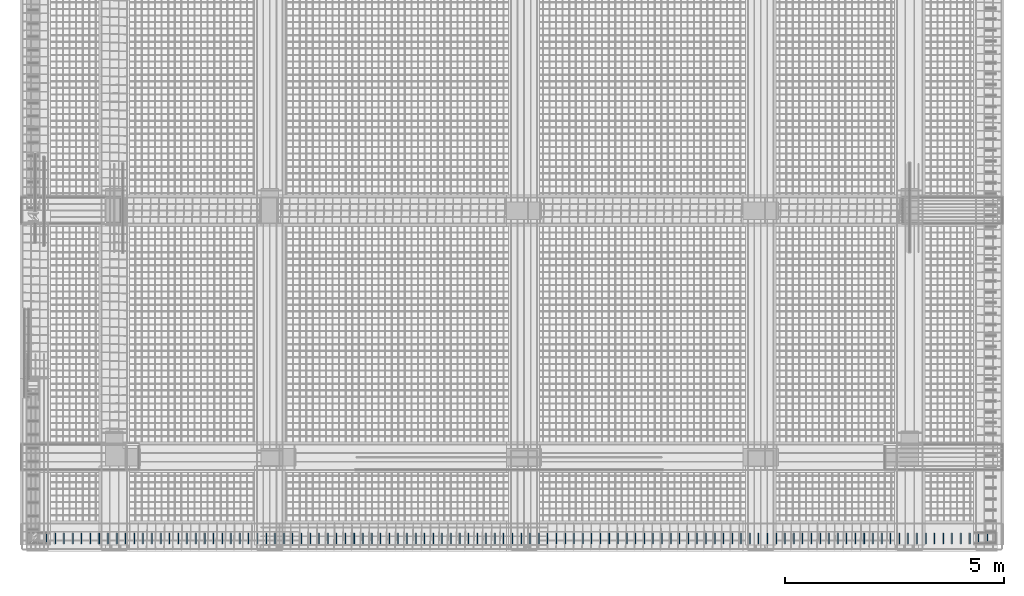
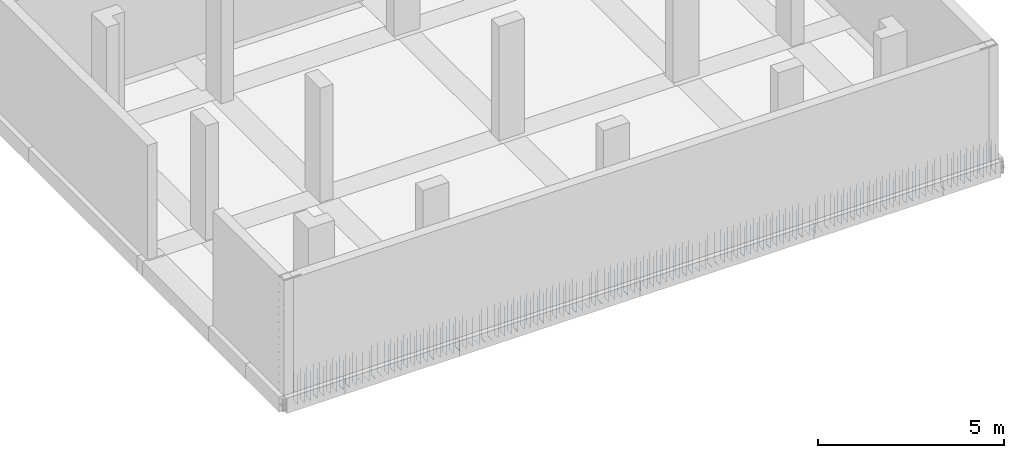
# One storey, part 5 of 9: 1 reinforcing bar.
"""IFC4 building model written with IfcOpenShell, lengths in metres."""

import ifcopenshell
import ifcopenshell.guid

model = None  # the IFC model being written
_history = None  # IfcOwnerHistory: only IFC2X3 demands one
_inside = {}  # id of a spatial element -> (the spatial element, [elements in it])
_under = {}  # id of a project, library or spatial element -> (it, [spatial elements below it])
_declared = {}  # id of a project -> (the project, [libraries it declares])
_typed = {}  # id of a type object -> (the type object, [elements of that type])
_made_of = {}  # id of a material, layer set ... -> (it, [elements and type objects made of it])


def new_model(schema):
    """Start an empty IFC model of exactly this schema.

    Asked for "IFC4X3", IfcOpenShell would pick the latest addendum, in which some entities
    have other attributes; the version numbers below select the first issue.
    IFC2X3 requires an IfcOwnerHistory on every rooted entity: one is made here for all.
    """
    global model, _history
    if schema == "IFC4X3":
        model = ifcopenshell.file(schema_version=(4, 3, 0, 0))
    else:
        model = ifcopenshell.file(schema=schema)
    _inside.clear()
    _under.clear()
    _declared.clear()
    _typed.clear()
    _made_of.clear()
    _history = None
    if model.schema == "IFC2X3":
        org = make("IfcOrganization", Name="unknown")
        user = make(
            "IfcPersonAndOrganization",
            ThePerson=make("IfcPerson", FamilyName="unknown"),
            TheOrganization=org,
        )
        app = make(
            "IfcApplication",
            ApplicationDeveloper=org,
            Version="unknown",
            ApplicationFullName="unknown",
            ApplicationIdentifier="unknown",
        )
        _history = make(
            "IfcOwnerHistory",
            OwningUser=user,
            OwningApplication=app,
            ChangeAction="ADDED",
            CreationDate=0,
        )
    return model


def make(cls, **values):
    """One entity of the class cls with the attributes given. An attribute that is None is left unset."""
    return model.create_entity(
        cls, **{name: value for name, value in values.items() if value is not None}
    )


def entity(cls, *values):
    """Any entity or typed value of the class cls, its attributes in the order of the schema. None: left unset."""
    e = model.create_entity(cls)
    for i, value in enumerate(values):
        if value is not None:
            e[i] = value
    return e


def rooted(cls, **values):
    """An entity with a GlobalId (a new one), such as an element, a storey or a relation."""
    return make(cls, GlobalId=ifcopenshell.guid.new(), OwnerHistory=_history, **values)


def si_unit(unit_type, name, prefix=None):
    """IfcSIUnit, for example si_unit("LENGTHUNIT", "METRE", prefix="MILLI")."""
    return make("IfcSIUnit", UnitType=unit_type, Prefix=prefix, Name=name)


def assignment(units):
    """IfcUnitAssignment: the units of a project."""
    return None if units is None else make("IfcUnitAssignment", Units=units)


def point(xyz):
    """IfcCartesianPoint."""
    return None if xyz is None else make("IfcCartesianPoint", Coordinates=xyz)


def direction(xyz):
    """IfcDirection."""
    return None if xyz is None else make("IfcDirection", DirectionRatios=xyz)


def frame(location, z_axis=None, x_axis=None):
    """IfcAxis2Placement3D, a coordinate frame: its origin and axes. An axis left out is left unset."""
    return make(
        "IfcAxis2Placement3D",
        Location=point(location),
        Axis=direction(z_axis),
        RefDirection=direction(x_axis),
    )


def origin_with_axes():
    """The frame at (0, 0, 0) with the z axis (0, 0, 1) and the x axis (1, 0, 0) written out."""
    return frame((0.0, 0.0, 0.0), z_axis=(0.0, 0.0, 1.0), x_axis=(1.0, 0.0, 0.0))


def place(relative_to, where):
    """IfcLocalPlacement: puts the frame where relative to a parent placement (None: the world)."""
    return make(
        "IfcLocalPlacement", PlacementRelTo=relative_to, RelativePlacement=where
    )


def context(
    kind, dimensions, precision=None, world=None, true_north=None, identifier=None
):
    """IfcGeometricRepresentationContext, for example the 3D "Model" context."""
    return make(
        "IfcGeometricRepresentationContext",
        ContextIdentifier=identifier,
        ContextType=kind,
        CoordinateSpaceDimension=dimensions,
        Precision=precision,
        WorldCoordinateSystem=world,
        TrueNorth=true_north,
    )


def project(units=None, contexts=None):
    """IfcProject with its units and contexts."""
    return rooted(
        "IfcProject",
        Name="project",
        RepresentationContexts=contexts,
        UnitsInContext=assignment(units),
    )


def spatial(cls, under=None, at=None, **own):
    """A site, building, storey or space (cls), placed at a placement, below another one or the project."""
    s = rooted(cls, ObjectPlacement=at, **own)
    if under is not None:
        _under.setdefault(under.id(), (under, []))[1].append(s)
    return s


def shape(context_of_items, identifier, shape_type, items):
    """IfcShapeRepresentation: the items that make up one representation, for example the "Body"."""
    return make(
        "IfcShapeRepresentation",
        ContextOfItems=context_of_items,
        RepresentationIdentifier=identifier,
        RepresentationType=shape_type,
        Items=items,
    )


def source(mapping_origin, context_of_items, identifier, shape_type, items):
    """IfcRepresentationMap: a shape defined once, which mapped items show again and again."""
    return make(
        "IfcRepresentationMap",
        MappingOrigin=mapping_origin,
        MappedRepresentation=shape(context_of_items, identifier, shape_type, items),
    )


def transform(
    local_origin,
    x_axis=None,
    y_axis=None,
    z_axis=None,
    scale=None,
    scale2=None,
    scale3=None,
    uniform=True,
):
    """IfcCartesianTransformationOperator3D, or its non-uniform kind. x_axis, y_axis, z_axis: its Axis1, 2, 3."""
    if uniform:
        return make(
            "IfcCartesianTransformationOperator3D",
            Axis1=direction(x_axis),
            Axis2=direction(y_axis),
            LocalOrigin=point(local_origin),
            Scale=scale,
            Axis3=direction(z_axis),
        )
    return make(
        "IfcCartesianTransformationOperator3DnonUniform",
        Axis1=direction(x_axis),
        Axis2=direction(y_axis),
        LocalOrigin=point(local_origin),
        Scale=scale,
        Axis3=direction(z_axis),
        Scale2=scale2,
        Scale3=scale3,
    )


def mapped(mapping_source, mapping_target):
    """IfcMappedItem: shows the shape of a source again, moved by a transform."""
    return make(
        "IfcMappedItem", MappingSource=mapping_source, MappingTarget=mapping_target
    )


def made_of(thing, what):
    """Note that an element or type object is made of a material, layer set ...; save() writes the relation."""
    if what is not None:
        _made_of.setdefault(what.id(), (what, []))[1].append(thing)
    return thing


def element(
    cls,
    number,
    at=None,
    inside=None,
    cuts=None,
    type_object=None,
    material=None,
    context=None,
    identifier="Body",
    shape_type=None,
    held_by="IfcProductDefinitionShape",
    body=None,
    shapes=None,
    **own,
):
    """One element of the class cls, such as IfcWall. Its Tag is "e" and its number.

    at: its placement. inside: the storey or other place that contains it. cuts: it is an
    opening in that element (IfcRelVoidsElement). A single representation is given by context,
    identifier, shape_type and body (its items); several are given by shapes. held_by: the class
    of the entity that holds the representations. save() writes the other relations.
    """
    e = rooted(cls, Tag="e%d" % number, ObjectPlacement=at, **own)
    if body is not None:
        shapes = [shape(context, identifier, shape_type, body)]
    if shapes is not None:
        e.Representation = make(held_by, Representations=shapes)
    if inside is not None:
        _inside.setdefault(inside.id(), (inside, []))[1].append(e)
    if cuts is not None:
        rooted(
            "IfcRelVoidsElement", RelatingBuildingElement=cuts, RelatedOpeningElement=e
        )
    if type_object is not None:
        _typed.setdefault(type_object.id(), (type_object, []))[1].append(e)
    return made_of(e, material)


def aggregate(whole, parts):
    """IfcRelAggregates: a whole, such as a stair, and the parts it consists of."""
    return rooted("IfcRelAggregates", RelatingObject=whole, RelatedObjects=parts)


def save(model, path):
    """Write the relations noted so far, then the file.

    IfcRelAggregates (storeys below a building ...), IfcRelContainedInSpatialStructure (elements
    in a storey), IfcRelDefinesByType, IfcRelAssociatesMaterial and IfcRelDeclares: one each for
    every whole, place, type object, material and project.
    """
    for whole, parts in _under.values():
        aggregate(whole, parts)
    for where, things in _inside.values():
        rooted(
            "IfcRelContainedInSpatialStructure",
            RelatedElements=things,
            RelatingStructure=where,
        )
    for kind, things in _typed.values():
        rooted("IfcRelDefinesByType", RelatedObjects=things, RelatingType=kind)
    for what, things in _made_of.values():
        rooted("IfcRelAssociatesMaterial", RelatedObjects=things, RelatingMaterial=what)
    for by, libraries in _declared.values():
        rooted("IfcRelDeclares", RelatingContext=by, RelatedDefinitions=libraries)
    model.write(path)


model = new_model("IFC4")

# Units and contexts
model_context = context("Model", 3, precision=1e-05, world=origin_with_axes())
ifc_project = project(units=[si_unit("LENGTHUNIT", "METRE"), si_unit("AREAUNIT", "SQUARE_METRE"), si_unit("VOLUMEUNIT", "CUBIC_METRE"), si_unit("MASSUNIT", "GRAM", prefix="KILO"), si_unit("TIMEUNIT", "SECOND"), si_unit("PLANEANGLEUNIT", "RADIAN"), si_unit("SOLIDANGLEUNIT", "STERADIAN"), si_unit("THERMODYNAMICTEMPERATUREUNIT", "DEGREE_CELSIUS")], contexts=[model_context])

# Site, building, storey
placement_1 = place(None, origin_with_axes())
site = spatial("IfcSite", under=ifc_project, at=placement_1, Name="Italia", CompositionType="ELEMENT")
building = spatial("IfcBuilding", under=site, at=placement_1, Name="Palazzina", CompositionType="ELEMENT")
storey = spatial("IfcBuildingStorey", under=building, at=placement_1, Name="Storey 0", CompositionType="ELEMENT", Elevation=0.0)

# Reinforcing bar
shared_shape = source(origin_with_axes(), model_context, "Body", "AdvancedSweptSolid", [
    entity("IfcSweptDiskSolid", entity("IfcIndexedPolyCurve", entity("IfcCartesianPointList3D", [[20.297, -1.541, 0.5], [20.297, -1.541, -0.445], [20.297, -1.54328, -0.456481], [20.297, -1.54979, -0.466213], [20.297, -1.55952, -0.472716], [20.297, -1.571, -0.475], [20.297, -1.767, -0.475]]), [entity("IfcLineIndex", [1, 2]), entity("IfcLineIndex", [2, 3]), entity("IfcLineIndex", [3, 4]), entity("IfcLineIndex", [4, 5]), entity("IfcLineIndex", [5, 6]), entity("IfcLineIndex", [6, 7])], False), 0.006),
])
placement_2 = place(placement_1, origin_with_axes())
reinforcing_bar_placement = place(placement_2, origin_with_axes())
element("IfcReinforcingBar", 1, at=reinforcing_bar_placement, inside=storey, BarLength=1.18782, CrossSectionArea=0.0001131, NominalDiameter=0.012, context=model_context, shape_type="MappedRepresentation", body=[
    mapped(shared_shape, transform((26.1735, -3.3, 0.0), x_axis=(-1.0, 0.0, 0.0), y_axis=(0.0, -1.0, 0.0), z_axis=(0.0, 0.0, 1.0), scale=1.0)),
    mapped(shared_shape, transform((-14.4205, 0.0, 0.0), x_axis=(1.0, 0.0, 0.0), y_axis=(0.0, 1.0, 0.0), z_axis=(0.0, 0.0, 1.0), scale=1.0)),
    mapped(shared_shape, transform((-14.0193, 0.0, 0.0), x_axis=(1.0, 0.0, 0.0), y_axis=(0.0, 1.0, 0.0), z_axis=(0.0, 0.0, 1.0), scale=1.0)),
    mapped(shared_shape, transform((-14.2199, 0.0, 0.0), x_axis=(1.0, 0.0, 0.0), y_axis=(0.0, 1.0, 0.0), z_axis=(0.0, 0.0, 1.0), scale=1.0)),
    mapped(shared_shape, transform((26.5747, -3.3, 0.0), x_axis=(-1.0, 0.0, 0.0), y_axis=(0.0, -1.0, 0.0), z_axis=(0.0, 0.0, 1.0), scale=1.0)),
    mapped(shared_shape, transform((26.3741, -3.3, 0.0), x_axis=(-1.0, 0.0, 0.0), y_axis=(0.0, -1.0, 0.0), z_axis=(0.0, 0.0, 1.0), scale=1.0)),
    mapped(shared_shape, transform((26.7754, -3.3, 0.0), x_axis=(-1.0, 0.0, 0.0), y_axis=(0.0, -1.0, 0.0), z_axis=(0.0, 0.0, 1.0), scale=1.0)),
    mapped(shared_shape, transform((-13.8187, 0.0, 0.0), x_axis=(1.0, 0.0, 0.0), y_axis=(0.0, 1.0, 0.0), z_axis=(0.0, 0.0, 1.0), scale=1.0)),
    mapped(shared_shape, transform((25.9729, -3.3, 0.0), x_axis=(-1.0, 0.0, 0.0), y_axis=(0.0, -1.0, 0.0), z_axis=(0.0, 0.0, 1.0), scale=1.0)),
    mapped(shared_shape, transform((29.7846, -3.3, 0.0), x_axis=(-1.0, 0.0, 0.0), y_axis=(0.0, -1.0, 0.0), z_axis=(0.0, 0.0, 1.0), scale=1.0)),
    mapped(shared_shape, transform((-14.8217, 0.0, 0.0), x_axis=(1.0, 0.0, 0.0), y_axis=(0.0, 1.0, 0.0), z_axis=(0.0, 0.0, 1.0), scale=1.0)),
    mapped(shared_shape, transform((-11.01, 0.0, 0.0), x_axis=(1.0, 0.0, 0.0), y_axis=(0.0, 1.0, 0.0), z_axis=(0.0, 0.0, 1.0), scale=1.0)),
    mapped(shared_shape, transform((-14.6211, 0.0, 0.0), x_axis=(1.0, 0.0, 0.0), y_axis=(0.0, 1.0, 0.0), z_axis=(0.0, 0.0, 1.0), scale=1.0)),
    mapped(shared_shape, transform((-15.8248, 0.0, 0.0), x_axis=(1.0, 0.0, 0.0), y_axis=(0.0, 1.0, 0.0), z_axis=(0.0, 0.0, 1.0), scale=1.0)),
    mapped(shared_shape, transform((-15.4236, 0.0, 0.0), x_axis=(1.0, 0.0, 0.0), y_axis=(0.0, 1.0, 0.0), z_axis=(0.0, 0.0, 1.0), scale=1.0)),
    mapped(shared_shape, transform((-15.6242, 0.0, 0.0), x_axis=(1.0, 0.0, 0.0), y_axis=(0.0, 1.0, 0.0), z_axis=(0.0, 0.0, 1.0), scale=1.0)),
    mapped(shared_shape, transform((25.1704, -3.3, 0.0), x_axis=(-1.0, 0.0, 0.0), y_axis=(0.0, -1.0, 0.0), z_axis=(0.0, 0.0, 1.0), scale=1.0)),
    mapped(shared_shape, transform((24.9698, -3.3, 0.0), x_axis=(-1.0, 0.0, 0.0), y_axis=(0.0, -1.0, 0.0), z_axis=(0.0, 0.0, 1.0), scale=1.0)),
    mapped(shared_shape, transform((25.371, -3.3, 0.0), x_axis=(-1.0, 0.0, 0.0), y_axis=(0.0, -1.0, 0.0), z_axis=(0.0, 0.0, 1.0), scale=1.0)),
    mapped(shared_shape, transform((-15.223, 0.0, 0.0), x_axis=(1.0, 0.0, 0.0), y_axis=(0.0, 1.0, 0.0), z_axis=(0.0, 0.0, 1.0), scale=1.0)),
    mapped(shared_shape, transform((24.5685, -3.3, 0.0), x_axis=(-1.0, 0.0, 0.0), y_axis=(0.0, -1.0, 0.0), z_axis=(0.0, 0.0, 1.0), scale=1.0)),
    mapped(shared_shape, transform((-15.0224, 0.0, 0.0), x_axis=(1.0, 0.0, 0.0), y_axis=(0.0, 1.0, 0.0), z_axis=(0.0, 0.0, 1.0), scale=1.0)),
    mapped(shared_shape, transform((25.7723, -3.3, 0.0), x_axis=(-1.0, 0.0, 0.0), y_axis=(0.0, -1.0, 0.0), z_axis=(0.0, 0.0, 1.0), scale=1.0)),
    mapped(shared_shape, transform((25.5716, -3.3, 0.0), x_axis=(-1.0, 0.0, 0.0), y_axis=(0.0, -1.0, 0.0), z_axis=(0.0, 0.0, 1.0), scale=1.0)),
    mapped(shared_shape, transform((-16.0255, 0.0, 0.0), x_axis=(1.0, 0.0, 0.0), y_axis=(0.0, 1.0, 0.0), z_axis=(0.0, 0.0, 1.0), scale=1.0)),
    mapped(shared_shape, transform((24.7692, -3.3, 0.0), x_axis=(-1.0, 0.0, 0.0), y_axis=(0.0, -1.0, 0.0), z_axis=(0.0, 0.0, 1.0), scale=1.0)),
    mapped(shared_shape, transform((-11.4112, 0.0, 0.0), x_axis=(1.0, 0.0, 0.0), y_axis=(0.0, 1.0, 0.0), z_axis=(0.0, 0.0, 1.0), scale=1.0)),
    mapped(shared_shape, transform((-11.6119, 0.0, 0.0), x_axis=(1.0, 0.0, 0.0), y_axis=(0.0, 1.0, 0.0), z_axis=(0.0, 0.0, 1.0), scale=1.0)),
    mapped(shared_shape, transform((29.1828, -3.3, 0.0), x_axis=(-1.0, 0.0, 0.0), y_axis=(0.0, -1.0, 0.0), z_axis=(0.0, 0.0, 1.0), scale=1.0)),
    mapped(shared_shape, transform((28.9822, -3.3, 0.0), x_axis=(-1.0, 0.0, 0.0), y_axis=(0.0, -1.0, 0.0), z_axis=(0.0, 0.0, 1.0), scale=1.0)),
    mapped(shared_shape, transform((29.3834, -3.3, 0.0), x_axis=(-1.0, 0.0, 0.0), y_axis=(0.0, -1.0, 0.0), z_axis=(0.0, 0.0, 1.0), scale=1.0)),
    mapped(shared_shape, transform((-11.2106, 0.0, 0.0), x_axis=(1.0, 0.0, 0.0), y_axis=(0.0, 1.0, 0.0), z_axis=(0.0, 0.0, 1.0), scale=1.0)),
    mapped(shared_shape, transform((-16.2261, 0.0, 0.0), x_axis=(1.0, 0.0, 0.0), y_axis=(0.0, 1.0, 0.0), z_axis=(0.0, 0.0, 1.0), scale=1.0)),
    mapped(shared_shape, transform((26.976, -3.3, 0.0), x_axis=(-1.0, 0.0, 0.0), y_axis=(0.0, -1.0, 0.0), z_axis=(0.0, 0.0, 1.0), scale=1.0)),
    mapped(shared_shape, transform((-13.618, 0.0, 0.0), x_axis=(1.0, 0.0, 0.0), y_axis=(0.0, 1.0, 0.0), z_axis=(0.0, 0.0, 1.0), scale=1.0)),
    mapped(shared_shape, transform((29.584, -3.3, 0.0), x_axis=(-1.0, 0.0, 0.0), y_axis=(0.0, -1.0, 0.0), z_axis=(0.0, 0.0, 1.0), scale=1.0)),
    mapped(shared_shape, transform((-12.0131, 0.0, 0.0), x_axis=(1.0, 0.0, 0.0), y_axis=(0.0, 1.0, 0.0), z_axis=(0.0, 0.0, 1.0), scale=1.0)),
    mapped(shared_shape, transform((28.7815, -3.3, 0.0), x_axis=(-1.0, 0.0, 0.0), y_axis=(0.0, -1.0, 0.0), z_axis=(0.0, 0.0, 1.0), scale=1.0)),
    mapped(shared_shape, transform((-12.8156, 0.0, 0.0), x_axis=(1.0, 0.0, 0.0), y_axis=(0.0, 1.0, 0.0), z_axis=(0.0, 0.0, 1.0), scale=1.0)),
    mapped(shared_shape, transform((-13.0162, 0.0, 0.0), x_axis=(1.0, 0.0, 0.0), y_axis=(0.0, 1.0, 0.0), z_axis=(0.0, 0.0, 1.0), scale=1.0)),
    mapped(shared_shape, transform((27.7784, -3.3, 0.0), x_axis=(-1.0, 0.0, 0.0), y_axis=(0.0, -1.0, 0.0), z_axis=(0.0, 0.0, 1.0), scale=1.0)),
    mapped(shared_shape, transform((-11.8125, 0.0, 0.0), x_axis=(1.0, 0.0, 0.0), y_axis=(0.0, 1.0, 0.0), z_axis=(0.0, 0.0, 1.0), scale=1.0)),
    mapped(shared_shape, transform((27.9791, -3.3, 0.0), x_axis=(-1.0, 0.0, 0.0), y_axis=(0.0, -1.0, 0.0), z_axis=(0.0, 0.0, 1.0), scale=1.0)),
    mapped(shared_shape, transform((-12.6149, 0.0, 0.0), x_axis=(1.0, 0.0, 0.0), y_axis=(0.0, 1.0, 0.0), z_axis=(0.0, 0.0, 1.0), scale=1.0)),
    mapped(shared_shape, transform((-12.2137, 0.0, 0.0), x_axis=(1.0, 0.0, 0.0), y_axis=(0.0, 1.0, 0.0), z_axis=(0.0, 0.0, 1.0), scale=1.0)),
    mapped(shared_shape, transform((-12.4143, 0.0, 0.0), x_axis=(1.0, 0.0, 0.0), y_axis=(0.0, 1.0, 0.0), z_axis=(0.0, 0.0, 1.0), scale=1.0)),
    mapped(shared_shape, transform((28.3803, -3.3, 0.0), x_axis=(-1.0, 0.0, 0.0), y_axis=(0.0, -1.0, 0.0), z_axis=(0.0, 0.0, 1.0), scale=1.0)),
    mapped(shared_shape, transform((28.1797, -3.3, 0.0), x_axis=(-1.0, 0.0, 0.0), y_axis=(0.0, -1.0, 0.0), z_axis=(0.0, 0.0, 1.0), scale=1.0)),
    mapped(shared_shape, transform((28.5809, -3.3, 0.0), x_axis=(-1.0, 0.0, 0.0), y_axis=(0.0, -1.0, 0.0), z_axis=(0.0, 0.0, 1.0), scale=1.0)),
    mapped(shared_shape, transform((27.3772, -3.3, 0.0), x_axis=(-1.0, 0.0, 0.0), y_axis=(0.0, -1.0, 0.0), z_axis=(0.0, 0.0, 1.0), scale=1.0)),
    mapped(shared_shape, transform((-19.6366, 0.0, 0.0), x_axis=(1.0, 0.0, 0.0), y_axis=(0.0, 1.0, 0.0), z_axis=(0.0, 0.0, 1.0), scale=1.0)),
    mapped(shared_shape, transform((27.5778, -3.3, 0.0), x_axis=(-1.0, 0.0, 0.0), y_axis=(0.0, -1.0, 0.0), z_axis=(0.0, 0.0, 1.0), scale=1.0)),
    mapped(shared_shape, transform((20.9574, -3.3, 0.0), x_axis=(-1.0, 0.0, 0.0), y_axis=(0.0, -1.0, 0.0), z_axis=(0.0, 0.0, 1.0), scale=1.0)),
    mapped(shared_shape, transform((-13.2168, 0.0, 0.0), x_axis=(1.0, 0.0, 0.0), y_axis=(0.0, 1.0, 0.0), z_axis=(0.0, 0.0, 1.0), scale=1.0)),
    mapped(shared_shape, transform((21.158, -3.3, 0.0), x_axis=(-1.0, 0.0, 0.0), y_axis=(0.0, -1.0, 0.0), z_axis=(0.0, 0.0, 1.0), scale=1.0)),
    mapped(shared_shape, transform((-19.436, 0.0, 0.0), x_axis=(1.0, 0.0, 0.0), y_axis=(0.0, 1.0, 0.0), z_axis=(0.0, 0.0, 1.0), scale=1.0)),
    mapped(shared_shape, transform((24.3679, -3.3, 0.0), x_axis=(-1.0, 0.0, 0.0), y_axis=(0.0, -1.0, 0.0), z_axis=(0.0, 0.0, 1.0), scale=1.0)),
    mapped(shared_shape, transform((-19.2353, 0.0, 0.0), x_axis=(1.0, 0.0, 0.0), y_axis=(0.0, 1.0, 0.0), z_axis=(0.0, 0.0, 1.0), scale=1.0)),
    mapped(shared_shape, transform((-16.4267, 0.0, 0.0), x_axis=(1.0, 0.0, 0.0), y_axis=(0.0, 1.0, 0.0), z_axis=(0.0, 0.0, 1.0), scale=1.0)),
    mapped(shared_shape, transform((21.3587, -3.3, 0.0), x_axis=(-1.0, 0.0, 0.0), y_axis=(0.0, -1.0, 0.0), z_axis=(0.0, 0.0, 1.0), scale=1.0)),
    mapped(shared_shape, transform((27.1766, -3.3, 0.0), x_axis=(-1.0, 0.0, 0.0), y_axis=(0.0, -1.0, 0.0), z_axis=(0.0, 0.0, 1.0), scale=1.0)),
    mapped(shared_shape, transform((-13.4174, 0.0, 0.0), x_axis=(1.0, 0.0, 0.0), y_axis=(0.0, 1.0, 0.0), z_axis=(0.0, 0.0, 1.0), scale=1.0)),
    mapped(shared_shape, transform((-21.0409, 0.0, 0.0), x_axis=(1.0, 0.0, 0.0), y_axis=(0.0, 1.0, 0.0), z_axis=(0.0, 0.0, 1.0), scale=1.0)),
    mapped(shared_shape, transform((20.7568, -3.3, 0.0), x_axis=(-1.0, 0.0, 0.0), y_axis=(0.0, -1.0, 0.0), z_axis=(0.0, 0.0, 1.0), scale=1.0)),
    mapped(shared_shape, transform((-19.8372, 0.0, 0.0), x_axis=(1.0, 0.0, 0.0), y_axis=(0.0, 1.0, 0.0), z_axis=(0.0, 0.0, 1.0), scale=1.0)),
    mapped(shared_shape, transform((-20.0378, 0.0, 0.0), x_axis=(1.0, 0.0, 0.0), y_axis=(0.0, 1.0, 0.0), z_axis=(0.0, 0.0, 1.0), scale=1.0)),
    mapped(shared_shape, transform((19.7537, -3.3, 0.0), x_axis=(-1.0, 0.0, 0.0), y_axis=(0.0, -1.0, 0.0), z_axis=(0.0, 0.0, 1.0), scale=1.0)),
    mapped(shared_shape, transform((-20.8403, 0.0, 0.0), x_axis=(1.0, 0.0, 0.0), y_axis=(0.0, 1.0, 0.0), z_axis=(0.0, 0.0, 1.0), scale=1.0)),
    mapped(shared_shape, transform((-20.4391, 0.0, 0.0), x_axis=(1.0, 0.0, 0.0), y_axis=(0.0, 1.0, 0.0), z_axis=(0.0, 0.0, 1.0), scale=1.0)),
    mapped(shared_shape, transform((-20.6397, 0.0, 0.0), x_axis=(1.0, 0.0, 0.0), y_axis=(0.0, 1.0, 0.0), z_axis=(0.0, 0.0, 1.0), scale=1.0)),
    mapped(shared_shape, transform((20.1549, -3.3, 0.0), x_axis=(-1.0, 0.0, 0.0), y_axis=(0.0, -1.0, 0.0), z_axis=(0.0, 0.0, 1.0), scale=1.0)),
    mapped(shared_shape, transform((19.9543, -3.3, 0.0), x_axis=(-1.0, 0.0, 0.0), y_axis=(0.0, -1.0, 0.0), z_axis=(0.0, 0.0, 1.0), scale=1.0)),
    mapped(shared_shape, transform((20.3556, -3.3, 0.0), x_axis=(-1.0, 0.0, 0.0), y_axis=(0.0, -1.0, 0.0), z_axis=(0.0, 0.0, 1.0), scale=1.0)),
    mapped(shared_shape, transform((-20.2384, 0.0, 0.0), x_axis=(1.0, 0.0, 0.0), y_axis=(0.0, 1.0, 0.0), z_axis=(0.0, 0.0, 1.0), scale=1.0)),
    mapped(shared_shape, transform((19.5531, -3.3, 0.0), x_axis=(-1.0, 0.0, 0.0), y_axis=(0.0, -1.0, 0.0), z_axis=(0.0, 0.0, 1.0), scale=1.0)),
    mapped(shared_shape, transform((19.3525, -3.3, 0.0), x_axis=(-1.0, 0.0, 0.0), y_axis=(0.0, -1.0, 0.0), z_axis=(0.0, 0.0, 1.0), scale=1.0)),
    mapped(shared_shape, transform((-21.2415, 0.0, 0.0), x_axis=(1.0, 0.0, 0.0), y_axis=(0.0, 1.0, 0.0), z_axis=(0.0, 0.0, 1.0), scale=1.0)),
    mapped(shared_shape, transform((20.5562, -3.3, 0.0), x_axis=(-1.0, 0.0, 0.0), y_axis=(0.0, -1.0, 0.0), z_axis=(0.0, 0.0, 1.0), scale=1.0)),
    mapped(shared_shape, transform((23.7661, -3.3, 0.0), x_axis=(-1.0, 0.0, 0.0), y_axis=(0.0, -1.0, 0.0), z_axis=(0.0, 0.0, 1.0), scale=1.0)),
    mapped(shared_shape, transform((-16.8279, 0.0, 0.0), x_axis=(1.0, 0.0, 0.0), y_axis=(0.0, 1.0, 0.0), z_axis=(0.0, 0.0, 1.0), scale=1.0)),
    mapped(shared_shape, transform((21.5593, -3.3, 0.0), x_axis=(-1.0, 0.0, 0.0), y_axis=(0.0, -1.0, 0.0), z_axis=(0.0, 0.0, 1.0), scale=1.0)),
    mapped(shared_shape, transform((-16.6273, 0.0, 0.0), x_axis=(1.0, 0.0, 0.0), y_axis=(0.0, 1.0, 0.0), z_axis=(0.0, 0.0, 1.0), scale=1.0)),
    mapped(shared_shape, transform((24.1673, -3.3, 0.0), x_axis=(-1.0, 0.0, 0.0), y_axis=(0.0, -1.0, 0.0), z_axis=(0.0, 0.0, 1.0), scale=1.0)),
    mapped(shared_shape, transform((23.9667, -3.3, 0.0), x_axis=(-1.0, 0.0, 0.0), y_axis=(0.0, -1.0, 0.0), z_axis=(0.0, 0.0, 1.0), scale=1.0)),
    mapped(shared_shape, transform((-19.0347, 0.0, 0.0), x_axis=(1.0, 0.0, 0.0), y_axis=(0.0, 1.0, 0.0), z_axis=(0.0, 0.0, 1.0), scale=1.0)),
    mapped(shared_shape, transform((-21.6428, 0.0, 0.0), x_axis=(1.0, 0.0, 0.0), y_axis=(0.0, 1.0, 0.0), z_axis=(0.0, 0.0, 1.0), scale=1.0)),
    mapped(shared_shape, transform((23.5655, -3.3, 0.0), x_axis=(-1.0, 0.0, 0.0), y_axis=(0.0, -1.0, 0.0), z_axis=(0.0, 0.0, 1.0), scale=1.0)),
    mapped(shared_shape, transform((-21.4421, 0.0, 0.0), x_axis=(1.0, 0.0, 0.0), y_axis=(0.0, 1.0, 0.0), z_axis=(0.0, 0.0, 1.0), scale=1.0)),
    mapped(shared_shape, transform((-17.2292, 0.0, 0.0), x_axis=(1.0, 0.0, 0.0), y_axis=(0.0, 1.0, 0.0), z_axis=(0.0, 0.0, 1.0), scale=1.0)),
    mapped(shared_shape, transform((19.1519, -3.3, 0.0), x_axis=(-1.0, 0.0, 0.0), y_axis=(0.0, -1.0, 0.0), z_axis=(0.0, 0.0, 1.0), scale=1.0)),
    mapped(shared_shape, transform((-17.0285, 0.0, 0.0), x_axis=(1.0, 0.0, 0.0), y_axis=(0.0, 1.0, 0.0), z_axis=(0.0, 0.0, 1.0), scale=1.0)),
    mapped(shared_shape, transform((-18.2323, 0.0, 0.0), x_axis=(1.0, 0.0, 0.0), y_axis=(0.0, 1.0, 0.0), z_axis=(0.0, 0.0, 1.0), scale=1.0)),
    mapped(shared_shape, transform((-17.831, 0.0, 0.0), x_axis=(1.0, 0.0, 0.0), y_axis=(0.0, 1.0, 0.0), z_axis=(0.0, 0.0, 1.0), scale=1.0)),
    mapped(shared_shape, transform((-18.0316, 0.0, 0.0), x_axis=(1.0, 0.0, 0.0), y_axis=(0.0, 1.0, 0.0), z_axis=(0.0, 0.0, 1.0), scale=1.0)),
    mapped(shared_shape, transform((22.763, -3.3, 0.0), x_axis=(-1.0, 0.0, 0.0), y_axis=(0.0, -1.0, 0.0), z_axis=(0.0, 0.0, 1.0), scale=1.0)),
    mapped(shared_shape, transform((22.5624, -3.3, 0.0), x_axis=(-1.0, 0.0, 0.0), y_axis=(0.0, -1.0, 0.0), z_axis=(0.0, 0.0, 1.0), scale=1.0)),
    mapped(shared_shape, transform((22.9636, -3.3, 0.0), x_axis=(-1.0, 0.0, 0.0), y_axis=(0.0, -1.0, 0.0), z_axis=(0.0, 0.0, 1.0), scale=1.0)),
    mapped(shared_shape, transform((-17.6304, 0.0, 0.0), x_axis=(1.0, 0.0, 0.0), y_axis=(0.0, 1.0, 0.0), z_axis=(0.0, 0.0, 1.0), scale=1.0)),
    mapped(shared_shape, transform((22.1611, -3.3, 0.0), x_axis=(-1.0, 0.0, 0.0), y_axis=(0.0, -1.0, 0.0), z_axis=(0.0, 0.0, 1.0), scale=1.0)),
    mapped(shared_shape, transform((-17.4298, 0.0, 0.0), x_axis=(1.0, 0.0, 0.0), y_axis=(0.0, 1.0, 0.0), z_axis=(0.0, 0.0, 1.0), scale=1.0)),
    mapped(shared_shape, transform((23.3648, -3.3, 0.0), x_axis=(-1.0, 0.0, 0.0), y_axis=(0.0, -1.0, 0.0), z_axis=(0.0, 0.0, 1.0), scale=1.0)),
    mapped(shared_shape, transform((23.1642, -3.3, 0.0), x_axis=(-1.0, 0.0, 0.0), y_axis=(0.0, -1.0, 0.0), z_axis=(0.0, 0.0, 1.0), scale=1.0)),
    mapped(shared_shape, transform((-18.4329, 0.0, 0.0), x_axis=(1.0, 0.0, 0.0), y_axis=(0.0, 1.0, 0.0), z_axis=(0.0, 0.0, 1.0), scale=1.0)),
    mapped(shared_shape, transform((22.3617, -3.3, 0.0), x_axis=(-1.0, 0.0, 0.0), y_axis=(0.0, -1.0, 0.0), z_axis=(0.0, 0.0, 1.0), scale=1.0)),
    mapped(shared_shape, transform((-2.78465, 0.0, 0.0), x_axis=(1.0, 0.0, 0.0), y_axis=(0.0, 1.0, 0.0), z_axis=(0.0, 0.0, 1.0), scale=1.0)),
    mapped(shared_shape, transform((-2.98527, 0.0, 0.0), x_axis=(1.0, 0.0, 0.0), y_axis=(0.0, 1.0, 0.0), z_axis=(0.0, 0.0, 1.0), scale=1.0)),
    mapped(shared_shape, transform((37.8094, -3.3, 0.0), x_axis=(-1.0, 0.0, 0.0), y_axis=(0.0, -1.0, 0.0), z_axis=(0.0, 0.0, 1.0), scale=1.0)),
    mapped(shared_shape, transform((37.6087, -3.3, 0.0), x_axis=(-1.0, 0.0, 0.0), y_axis=(0.0, -1.0, 0.0), z_axis=(0.0, 0.0, 1.0), scale=1.0)),
    mapped(shared_shape, transform((0.0, 0.0, 0.0), x_axis=(1.0, 0.0, 0.0), y_axis=(0.0, 1.0, 0.0), z_axis=(0.0, 0.0, 1.0), scale=1.0)),
    mapped(shared_shape, transform((18.9512, -3.3, 0.0), x_axis=(-1.0, 0.0, 0.0), y_axis=(0.0, -1.0, 0.0), z_axis=(0.0, 0.0, 1.0), scale=1.0)),
    mapped(shared_shape, transform((-18.6335, 0.0, 0.0), x_axis=(1.0, 0.0, 0.0), y_axis=(0.0, 1.0, 0.0), z_axis=(0.0, 0.0, 1.0), scale=1.0)),
    mapped(shared_shape, transform((-18.8341, 0.0, 0.0), x_axis=(1.0, 0.0, 0.0), y_axis=(0.0, 1.0, 0.0), z_axis=(0.0, 0.0, 1.0), scale=1.0)),
    mapped(shared_shape, transform((21.9605, -3.3, 0.0), x_axis=(-1.0, 0.0, 0.0), y_axis=(0.0, -1.0, 0.0), z_axis=(0.0, 0.0, 1.0), scale=1.0)),
    mapped(shared_shape, transform((21.7599, -3.3, 0.0), x_axis=(-1.0, 0.0, 0.0), y_axis=(0.0, -1.0, 0.0), z_axis=(0.0, 0.0, 1.0), scale=1.0)),
    mapped(shared_shape, transform((-3.3865, 0.0, 0.0), x_axis=(1.0, 0.0, 0.0), y_axis=(0.0, 1.0, 0.0), z_axis=(0.0, 0.0, 1.0), scale=1.0)),
    mapped(shared_shape, transform((37.4081, -3.3, 0.0), x_axis=(-1.0, 0.0, 0.0), y_axis=(0.0, -1.0, 0.0), z_axis=(0.0, 0.0, 1.0), scale=1.0)),
    mapped(shared_shape, transform((-4.18898, 0.0, 0.0), x_axis=(1.0, 0.0, 0.0), y_axis=(0.0, 1.0, 0.0), z_axis=(0.0, 0.0, 1.0), scale=1.0)),
    mapped(shared_shape, transform((-4.3896, 0.0, 0.0), x_axis=(1.0, 0.0, 0.0), y_axis=(0.0, 1.0, 0.0), z_axis=(0.0, 0.0, 1.0), scale=1.0)),
    mapped(shared_shape, transform((36.405, -3.3, 0.0), x_axis=(-1.0, 0.0, 0.0), y_axis=(0.0, -1.0, 0.0), z_axis=(0.0, 0.0, 1.0), scale=1.0)),
    mapped(shared_shape, transform((-3.18588, 0.0, 0.0), x_axis=(1.0, 0.0, 0.0), y_axis=(0.0, 1.0, 0.0), z_axis=(0.0, 0.0, 1.0), scale=1.0)),
    mapped(shared_shape, transform((36.6056, -3.3, 0.0), x_axis=(-1.0, 0.0, 0.0), y_axis=(0.0, -1.0, 0.0), z_axis=(0.0, 0.0, 1.0), scale=1.0)),
    mapped(shared_shape, transform((-3.98836, 0.0, 0.0), x_axis=(1.0, 0.0, 0.0), y_axis=(0.0, 1.0, 0.0), z_axis=(0.0, 0.0, 1.0), scale=1.0)),
    mapped(shared_shape, transform((-3.58712, 0.0, 0.0), x_axis=(1.0, 0.0, 0.0), y_axis=(0.0, 1.0, 0.0), z_axis=(0.0, 0.0, 1.0), scale=1.0)),
    mapped(shared_shape, transform((-3.78774, 0.0, 0.0), x_axis=(1.0, 0.0, 0.0), y_axis=(0.0, 1.0, 0.0), z_axis=(0.0, 0.0, 1.0), scale=1.0)),
    mapped(shared_shape, transform((37.0069, -3.3, 0.0), x_axis=(-1.0, 0.0, 0.0), y_axis=(0.0, -1.0, 0.0), z_axis=(0.0, 0.0, 1.0), scale=1.0)),
    mapped(shared_shape, transform((36.8063, -3.3, 0.0), x_axis=(-1.0, 0.0, 0.0), y_axis=(0.0, -1.0, 0.0), z_axis=(0.0, 0.0, 1.0), scale=1.0)),
    mapped(shared_shape, transform((37.2075, -3.3, 0.0), x_axis=(-1.0, 0.0, 0.0), y_axis=(0.0, -1.0, 0.0), z_axis=(0.0, 0.0, 1.0), scale=1.0)),
    mapped(shared_shape, transform((36.0038, -3.3, 0.0), x_axis=(-1.0, 0.0, 0.0), y_axis=(0.0, -1.0, 0.0), z_axis=(0.0, 0.0, 1.0), scale=1.0)),
    mapped(shared_shape, transform((-0.176619, 0.0, 0.0), x_axis=(1.0, 0.0, 0.0), y_axis=(0.0, 1.0, 0.0), z_axis=(0.0, 0.0, 1.0), scale=1.0)),
    mapped(shared_shape, transform((36.2044, -3.3, 0.0), x_axis=(-1.0, 0.0, 0.0), y_axis=(0.0, -1.0, 0.0), z_axis=(0.0, 0.0, 1.0), scale=1.0)),
    mapped(shared_shape, transform((40.4174, -3.3, 0.0), x_axis=(-1.0, 0.0, 0.0), y_axis=(0.0, -1.0, 0.0), z_axis=(0.0, 0.0, 1.0), scale=1.0)),
    mapped(shared_shape, transform((-4.59021, 0.0, 0.0), x_axis=(1.0, 0.0, 0.0), y_axis=(0.0, 1.0, 0.0), z_axis=(0.0, 0.0, 1.0), scale=1.0)),
    mapped(shared_shape, transform((40.594, -3.3, 0.0), x_axis=(-1.0, 0.0, 0.0), y_axis=(0.0, -1.0, 0.0), z_axis=(0.0, 0.0, 1.0), scale=1.0)),
    mapped(shared_shape, transform((38.01, -3.3, 0.0), x_axis=(-1.0, 0.0, 0.0), y_axis=(0.0, -1.0, 0.0), z_axis=(0.0, 0.0, 1.0), scale=1.0)),
    mapped(shared_shape, transform((-4.99145, 0.0, 0.0), x_axis=(1.0, 0.0, 0.0), y_axis=(0.0, 1.0, 0.0), z_axis=(0.0, 0.0, 1.0), scale=1.0)),
    mapped(shared_shape, transform((-5.19207, 0.0, 0.0), x_axis=(1.0, 0.0, 0.0), y_axis=(0.0, 1.0, 0.0), z_axis=(0.0, 0.0, 1.0), scale=1.0)),
    mapped(shared_shape, transform((35.6026, -3.3, 0.0), x_axis=(-1.0, 0.0, 0.0), y_axis=(0.0, -1.0, 0.0), z_axis=(0.0, 0.0, 1.0), scale=1.0)),
    mapped(shared_shape, transform((-2.58403, 0.0, 0.0), x_axis=(1.0, 0.0, 0.0), y_axis=(0.0, 1.0, 0.0), z_axis=(0.0, 0.0, 1.0), scale=1.0)),
    mapped(shared_shape, transform((35.8032, -3.3, 0.0), x_axis=(-1.0, 0.0, 0.0), y_axis=(0.0, -1.0, 0.0), z_axis=(0.0, 0.0, 1.0), scale=1.0)),
    mapped(shared_shape, transform((-4.79083, 0.0, 0.0), x_axis=(1.0, 0.0, 0.0), y_axis=(0.0, 1.0, 0.0), z_axis=(0.0, 0.0, 1.0), scale=1.0)),
    mapped(shared_shape, transform((-1.58094, 0.0, 0.0), x_axis=(1.0, 0.0, 0.0), y_axis=(0.0, 1.0, 0.0), z_axis=(0.0, 0.0, 1.0), scale=1.0)),
    mapped(shared_shape, transform((40.2168, -3.3, 0.0), x_axis=(-1.0, 0.0, 0.0), y_axis=(0.0, -1.0, 0.0), z_axis=(0.0, 0.0, 1.0), scale=1.0)),
    mapped(shared_shape, transform((-0.377235, 0.0, 0.0), x_axis=(1.0, 0.0, 0.0), y_axis=(0.0, 1.0, 0.0), z_axis=(0.0, 0.0, 1.0), scale=1.0)),
    mapped(shared_shape, transform((-0.577854, 0.0, 0.0), x_axis=(1.0, 0.0, 0.0), y_axis=(0.0, 1.0, 0.0), z_axis=(0.0, 0.0, 1.0), scale=1.0)),
    mapped(shared_shape, transform((39.2137, -3.3, 0.0), x_axis=(-1.0, 0.0, 0.0), y_axis=(0.0, -1.0, 0.0), z_axis=(0.0, 0.0, 1.0), scale=1.0)),
    mapped(shared_shape, transform((-1.38033, 0.0, 0.0), x_axis=(1.0, 0.0, 0.0), y_axis=(0.0, 1.0, 0.0), z_axis=(0.0, 0.0, 1.0), scale=1.0)),
    mapped(shared_shape, transform((-0.97909, 0.0, 0.0), x_axis=(1.0, 0.0, 0.0), y_axis=(0.0, 1.0, 0.0), z_axis=(0.0, 0.0, 1.0), scale=1.0)),
    mapped(shared_shape, transform((-1.17971, 0.0, 0.0), x_axis=(1.0, 0.0, 0.0), y_axis=(0.0, 1.0, 0.0), z_axis=(0.0, 0.0, 1.0), scale=1.0)),
    mapped(shared_shape, transform((39.6149, -3.3, 0.0), x_axis=(-1.0, 0.0, 0.0), y_axis=(0.0, -1.0, 0.0), z_axis=(0.0, 0.0, 1.0), scale=1.0)),
    mapped(shared_shape, transform((39.4143, -3.3, 0.0), x_axis=(-1.0, 0.0, 0.0), y_axis=(0.0, -1.0, 0.0), z_axis=(0.0, 0.0, 1.0), scale=1.0)),
    mapped(shared_shape, transform((39.8155, -3.3, 0.0), x_axis=(-1.0, 0.0, 0.0), y_axis=(0.0, -1.0, 0.0), z_axis=(0.0, 0.0, 1.0), scale=1.0)),
    mapped(shared_shape, transform((-0.778471, 0.0, 0.0), x_axis=(1.0, 0.0, 0.0), y_axis=(0.0, 1.0, 0.0), z_axis=(0.0, 0.0, 1.0), scale=1.0)),
    mapped(shared_shape, transform((39.0131, -3.3, 0.0), x_axis=(-1.0, 0.0, 0.0), y_axis=(0.0, -1.0, 0.0), z_axis=(0.0, 0.0, 1.0), scale=1.0)),
    mapped(shared_shape, transform((38.8124, -3.3, 0.0), x_axis=(-1.0, 0.0, 0.0), y_axis=(0.0, -1.0, 0.0), z_axis=(0.0, 0.0, 1.0), scale=1.0)),
    mapped(shared_shape, transform((-1.78156, 0.0, 0.0), x_axis=(1.0, 0.0, 0.0), y_axis=(0.0, 1.0, 0.0), z_axis=(0.0, 0.0, 1.0), scale=1.0)),
    mapped(shared_shape, transform((40.0161, -3.3, 0.0), x_axis=(-1.0, 0.0, 0.0), y_axis=(0.0, -1.0, 0.0), z_axis=(0.0, 0.0, 1.0), scale=1.0)),
    mapped(shared_shape, transform((32.3927, -3.3, 0.0), x_axis=(-1.0, 0.0, 0.0), y_axis=(0.0, -1.0, 0.0), z_axis=(0.0, 0.0, 1.0), scale=1.0)),
    mapped(shared_shape, transform((-8.20134, 0.0, 0.0), x_axis=(1.0, 0.0, 0.0), y_axis=(0.0, 1.0, 0.0), z_axis=(0.0, 0.0, 1.0), scale=1.0)),
    mapped(shared_shape, transform((-2.38341, 0.0, 0.0), x_axis=(1.0, 0.0, 0.0), y_axis=(0.0, 1.0, 0.0), z_axis=(0.0, 0.0, 1.0), scale=1.0)),
    mapped(shared_shape, transform((35.4019, -3.3, 0.0), x_axis=(-1.0, 0.0, 0.0), y_axis=(0.0, -1.0, 0.0), z_axis=(0.0, 0.0, 1.0), scale=1.0)),
    mapped(shared_shape, transform((38.2106, -3.3, 0.0), x_axis=(-1.0, 0.0, 0.0), y_axis=(0.0, -1.0, 0.0), z_axis=(0.0, 0.0, 1.0), scale=1.0)),
    mapped(shared_shape, transform((-5.39269, 0.0, 0.0), x_axis=(1.0, 0.0, 0.0), y_axis=(0.0, 1.0, 0.0), z_axis=(0.0, 0.0, 1.0), scale=1.0)),
    mapped(shared_shape, transform((38.4112, -3.3, 0.0), x_axis=(-1.0, 0.0, 0.0), y_axis=(0.0, -1.0, 0.0), z_axis=(0.0, 0.0, 1.0), scale=1.0)),
    mapped(shared_shape, transform((-2.1828, 0.0, 0.0), x_axis=(1.0, 0.0, 0.0), y_axis=(0.0, 1.0, 0.0), z_axis=(0.0, 0.0, 1.0), scale=1.0)),
    mapped(shared_shape, transform((32.192, -3.3, 0.0), x_axis=(-1.0, 0.0, 0.0), y_axis=(0.0, -1.0, 0.0), z_axis=(0.0, 0.0, 1.0), scale=1.0)),
    mapped(shared_shape, transform((-1.98218, 0.0, 0.0), x_axis=(1.0, 0.0, 0.0), y_axis=(0.0, 1.0, 0.0), z_axis=(0.0, 0.0, 1.0), scale=1.0)),
    mapped(shared_shape, transform((-8.60258, 0.0, 0.0), x_axis=(1.0, 0.0, 0.0), y_axis=(0.0, 1.0, 0.0), z_axis=(0.0, 0.0, 1.0), scale=1.0)),
    mapped(shared_shape, transform((38.6118, -3.3, 0.0), x_axis=(-1.0, 0.0, 0.0), y_axis=(0.0, -1.0, 0.0), z_axis=(0.0, 0.0, 1.0), scale=1.0)),
    mapped(shared_shape, transform((-8.40196, 0.0, 0.0), x_axis=(1.0, 0.0, 0.0), y_axis=(0.0, 1.0, 0.0), z_axis=(0.0, 0.0, 1.0), scale=1.0)),
    mapped(shared_shape, transform((-9.60567, 0.0, 0.0), x_axis=(1.0, 0.0, 0.0), y_axis=(0.0, 1.0, 0.0), z_axis=(0.0, 0.0, 1.0), scale=1.0)),
    mapped(shared_shape, transform((-9.20443, 0.0, 0.0), x_axis=(1.0, 0.0, 0.0), y_axis=(0.0, 1.0, 0.0), z_axis=(0.0, 0.0, 1.0), scale=1.0)),
    mapped(shared_shape, transform((-9.40505, 0.0, 0.0), x_axis=(1.0, 0.0, 0.0), y_axis=(0.0, 1.0, 0.0), z_axis=(0.0, 0.0, 1.0), scale=1.0)),
    mapped(shared_shape, transform((31.3896, -3.3, 0.0), x_axis=(-1.0, 0.0, 0.0), y_axis=(0.0, -1.0, 0.0), z_axis=(0.0, 0.0, 1.0), scale=1.0)),
    mapped(shared_shape, transform((31.1889, -3.3, 0.0), x_axis=(-1.0, 0.0, 0.0), y_axis=(0.0, -1.0, 0.0), z_axis=(0.0, 0.0, 1.0), scale=1.0)),
    mapped(shared_shape, transform((31.5902, -3.3, 0.0), x_axis=(-1.0, 0.0, 0.0), y_axis=(0.0, -1.0, 0.0), z_axis=(0.0, 0.0, 1.0), scale=1.0)),
    mapped(shared_shape, transform((-9.00381, 0.0, 0.0), x_axis=(1.0, 0.0, 0.0), y_axis=(0.0, 1.0, 0.0), z_axis=(0.0, 0.0, 1.0), scale=1.0)),
    mapped(shared_shape, transform((30.7877, -3.3, 0.0), x_axis=(-1.0, 0.0, 0.0), y_axis=(0.0, -1.0, 0.0), z_axis=(0.0, 0.0, 1.0), scale=1.0)),
    mapped(shared_shape, transform((-8.8032, 0.0, 0.0), x_axis=(1.0, 0.0, 0.0), y_axis=(0.0, 1.0, 0.0), z_axis=(0.0, 0.0, 1.0), scale=1.0)),
    mapped(shared_shape, transform((31.9914, -3.3, 0.0), x_axis=(-1.0, 0.0, 0.0), y_axis=(0.0, -1.0, 0.0), z_axis=(0.0, 0.0, 1.0), scale=1.0)),
    mapped(shared_shape, transform((31.7908, -3.3, 0.0), x_axis=(-1.0, 0.0, 0.0), y_axis=(0.0, -1.0, 0.0), z_axis=(0.0, 0.0, 1.0), scale=1.0)),
    mapped(shared_shape, transform((-9.80629, 0.0, 0.0), x_axis=(1.0, 0.0, 0.0), y_axis=(0.0, 1.0, 0.0), z_axis=(0.0, 0.0, 1.0), scale=1.0)),
    mapped(shared_shape, transform((30.9883, -3.3, 0.0), x_axis=(-1.0, 0.0, 0.0), y_axis=(0.0, -1.0, 0.0), z_axis=(0.0, 0.0, 1.0), scale=1.0)),
    mapped(shared_shape, transform((-10.6088, 0.0, 0.0), x_axis=(1.0, 0.0, 0.0), y_axis=(0.0, 1.0, 0.0), z_axis=(0.0, 0.0, 1.0), scale=1.0)),
    mapped(shared_shape, transform((32.5933, -3.3, 0.0), x_axis=(-1.0, 0.0, 0.0), y_axis=(0.0, -1.0, 0.0), z_axis=(0.0, 0.0, 1.0), scale=1.0)),
    mapped(shared_shape, transform((-8.00072, 0.0, 0.0), x_axis=(1.0, 0.0, 0.0), y_axis=(0.0, 1.0, 0.0), z_axis=(0.0, 0.0, 1.0), scale=1.0)),
    mapped(shared_shape, transform((35.2013, -3.3, 0.0), x_axis=(-1.0, 0.0, 0.0), y_axis=(0.0, -1.0, 0.0), z_axis=(0.0, 0.0, 1.0), scale=1.0)),
    mapped(shared_shape, transform((30.1859, -3.3, 0.0), x_axis=(-1.0, 0.0, 0.0), y_axis=(0.0, -1.0, 0.0), z_axis=(0.0, 0.0, 1.0), scale=1.0)),
    mapped(shared_shape, transform((-10.4081, 0.0, 0.0), x_axis=(1.0, 0.0, 0.0), y_axis=(0.0, 1.0, 0.0), z_axis=(0.0, 0.0, 1.0), scale=1.0)),
    mapped(shared_shape, transform((-10.0069, 0.0, 0.0), x_axis=(1.0, 0.0, 0.0), y_axis=(0.0, 1.0, 0.0), z_axis=(0.0, 0.0, 1.0), scale=1.0)),
    mapped(shared_shape, transform((-10.2075, 0.0, 0.0), x_axis=(1.0, 0.0, 0.0), y_axis=(0.0, 1.0, 0.0), z_axis=(0.0, 0.0, 1.0), scale=1.0)),
    mapped(shared_shape, transform((30.5871, -3.3, 0.0), x_axis=(-1.0, 0.0, 0.0), y_axis=(0.0, -1.0, 0.0), z_axis=(0.0, 0.0, 1.0), scale=1.0)),
    mapped(shared_shape, transform((30.3865, -3.3, 0.0), x_axis=(-1.0, 0.0, 0.0), y_axis=(0.0, -1.0, 0.0), z_axis=(0.0, 0.0, 1.0), scale=1.0)),
    mapped(shared_shape, transform((-5.79392, 0.0, 0.0), x_axis=(1.0, 0.0, 0.0), y_axis=(0.0, 1.0, 0.0), z_axis=(0.0, 0.0, 1.0), scale=1.0)),
    mapped(shared_shape, transform((35.0007, -3.3, 0.0), x_axis=(-1.0, 0.0, 0.0), y_axis=(0.0, -1.0, 0.0), z_axis=(0.0, 0.0, 1.0), scale=1.0)),
    mapped(shared_shape, transform((-6.5964, 0.0, 0.0), x_axis=(1.0, 0.0, 0.0), y_axis=(0.0, 1.0, 0.0), z_axis=(0.0, 0.0, 1.0), scale=1.0)),
    mapped(shared_shape, transform((-6.79701, 0.0, 0.0), x_axis=(1.0, 0.0, 0.0), y_axis=(0.0, 1.0, 0.0), z_axis=(0.0, 0.0, 1.0), scale=1.0)),
    mapped(shared_shape, transform((33.9976, -3.3, 0.0), x_axis=(-1.0, 0.0, 0.0), y_axis=(0.0, -1.0, 0.0), z_axis=(0.0, 0.0, 1.0), scale=1.0)),
    mapped(shared_shape, transform((-5.5933, 0.0, 0.0), x_axis=(1.0, 0.0, 0.0), y_axis=(0.0, 1.0, 0.0), z_axis=(0.0, 0.0, 1.0), scale=1.0)),
    mapped(shared_shape, transform((34.1982, -3.3, 0.0), x_axis=(-1.0, 0.0, 0.0), y_axis=(0.0, -1.0, 0.0), z_axis=(0.0, 0.0, 1.0), scale=1.0)),
    mapped(shared_shape, transform((-6.39578, 0.0, 0.0), x_axis=(1.0, 0.0, 0.0), y_axis=(0.0, 1.0, 0.0), z_axis=(0.0, 0.0, 1.0), scale=1.0)),
    mapped(shared_shape, transform((-5.99454, 0.0, 0.0), x_axis=(1.0, 0.0, 0.0), y_axis=(0.0, 1.0, 0.0), z_axis=(0.0, 0.0, 1.0), scale=1.0)),
    mapped(shared_shape, transform((-6.19516, 0.0, 0.0), x_axis=(1.0, 0.0, 0.0), y_axis=(0.0, 1.0, 0.0), z_axis=(0.0, 0.0, 1.0), scale=1.0)),
    mapped(shared_shape, transform((34.5995, -3.3, 0.0), x_axis=(-1.0, 0.0, 0.0), y_axis=(0.0, -1.0, 0.0), z_axis=(0.0, 0.0, 1.0), scale=1.0)),
    mapped(shared_shape, transform((34.3988, -3.3, 0.0), x_axis=(-1.0, 0.0, 0.0), y_axis=(0.0, -1.0, 0.0), z_axis=(0.0, 0.0, 1.0), scale=1.0)),
    mapped(shared_shape, transform((34.8001, -3.3, 0.0), x_axis=(-1.0, 0.0, 0.0), y_axis=(0.0, -1.0, 0.0), z_axis=(0.0, 0.0, 1.0), scale=1.0)),
    mapped(shared_shape, transform((33.5964, -3.3, 0.0), x_axis=(-1.0, 0.0, 0.0), y_axis=(0.0, -1.0, 0.0), z_axis=(0.0, 0.0, 1.0), scale=1.0)),
    mapped(shared_shape, transform((29.9852, -3.3, 0.0), x_axis=(-1.0, 0.0, 0.0), y_axis=(0.0, -1.0, 0.0), z_axis=(0.0, 0.0, 1.0), scale=1.0)),
    mapped(shared_shape, transform((33.797, -3.3, 0.0), x_axis=(-1.0, 0.0, 0.0), y_axis=(0.0, -1.0, 0.0), z_axis=(0.0, 0.0, 1.0), scale=1.0)),
    mapped(shared_shape, transform((-10.8094, 0.0, 0.0), x_axis=(1.0, 0.0, 0.0), y_axis=(0.0, 1.0, 0.0), z_axis=(0.0, 0.0, 1.0), scale=1.0)),
    mapped(shared_shape, transform((-6.99763, 0.0, 0.0), x_axis=(1.0, 0.0, 0.0), y_axis=(0.0, 1.0, 0.0), z_axis=(0.0, 0.0, 1.0), scale=1.0)),
    mapped(shared_shape, transform((32.7939, -3.3, 0.0), x_axis=(-1.0, 0.0, 0.0), y_axis=(0.0, -1.0, 0.0), z_axis=(0.0, 0.0, 1.0), scale=1.0)),
    mapped(shared_shape, transform((-7.80011, 0.0, 0.0), x_axis=(1.0, 0.0, 0.0), y_axis=(0.0, 1.0, 0.0), z_axis=(0.0, 0.0, 1.0), scale=1.0)),
    mapped(shared_shape, transform((-7.39887, 0.0, 0.0), x_axis=(1.0, 0.0, 0.0), y_axis=(0.0, 1.0, 0.0), z_axis=(0.0, 0.0, 1.0), scale=1.0)),
    mapped(shared_shape, transform((-7.59949, 0.0, 0.0), x_axis=(1.0, 0.0, 0.0), y_axis=(0.0, 1.0, 0.0), z_axis=(0.0, 0.0, 1.0), scale=1.0)),
    mapped(shared_shape, transform((33.1951, -3.3, 0.0), x_axis=(-1.0, 0.0, 0.0), y_axis=(0.0, -1.0, 0.0), z_axis=(0.0, 0.0, 1.0), scale=1.0)),
    mapped(shared_shape, transform((32.9945, -3.3, 0.0), x_axis=(-1.0, 0.0, 0.0), y_axis=(0.0, -1.0, 0.0), z_axis=(0.0, 0.0, 1.0), scale=1.0)),
    mapped(shared_shape, transform((33.3958, -3.3, 0.0), x_axis=(-1.0, 0.0, 0.0), y_axis=(0.0, -1.0, 0.0), z_axis=(0.0, 0.0, 1.0), scale=1.0)),
    mapped(shared_shape, transform((-7.19825, 0.0, 0.0), x_axis=(1.0, 0.0, 0.0), y_axis=(0.0, 1.0, 0.0), z_axis=(0.0, 0.0, 1.0), scale=1.0)),
])

save(model, "model.ifc")
